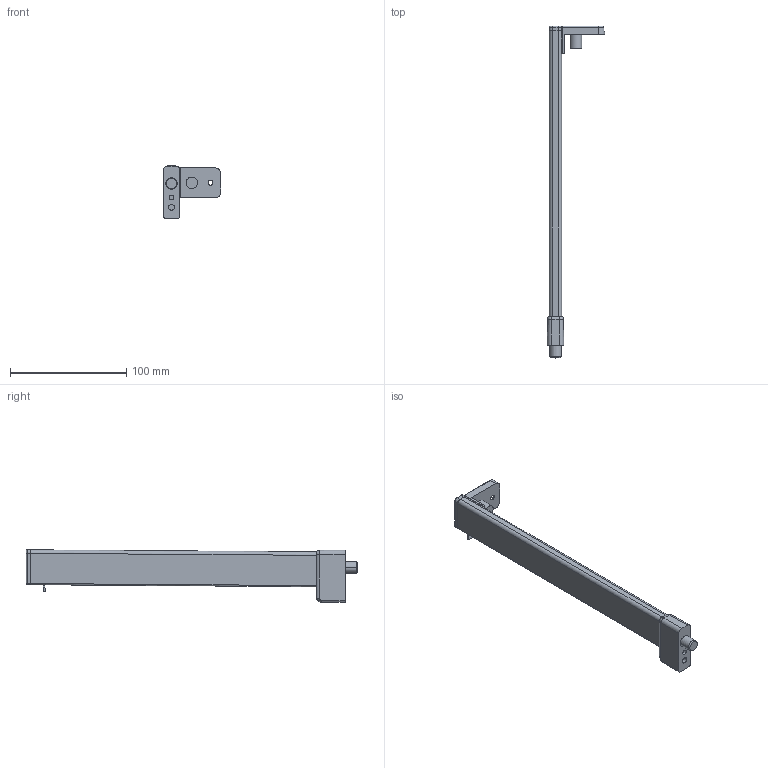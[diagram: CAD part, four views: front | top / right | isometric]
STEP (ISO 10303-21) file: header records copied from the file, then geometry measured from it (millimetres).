
FILE_DESCRIPTION (( 'STEP AP214' ), '1' );
FILE_NAME ('_2S_REL_7606_NL270_LI.step', '2010-07-01T14:41:39', ( 'grass' ), ( '' ), 'SwSTEP 2.0', 'SolidWorks 2009', '' );
FILE_SCHEMA (( 'AUTOMOTIVE_DESIGN' ));
Length unit declared in the file: millimetre
Products named in the file (1): _2S_REL_7606_NL270_LI
Bounding box: 49.25 x 285.5 x 45.4 mm (x, y, z)
Volume: 98130.7 mm3; surface area: 27484.8 mm2
Topology: 2 solids, 2 shells, 120 faces, 292 edges, 178 vertices
Faces by surface type: cylinder 58, plane 40, bspline 10, torus 6, cone 4, sphere 2
Entity records: 4528 total; most frequent: CARTESIAN_POINT 1803, ORIENTED_EDGE 580, DIRECTION 546, EDGE_CURVE 290, AXIS2_PLACEMENT_3D 203, VERTEX_POINT 178, VECTOR 140, LINE 140
